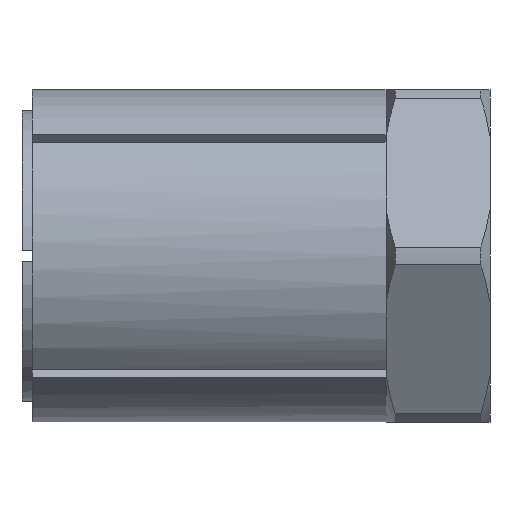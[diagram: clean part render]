
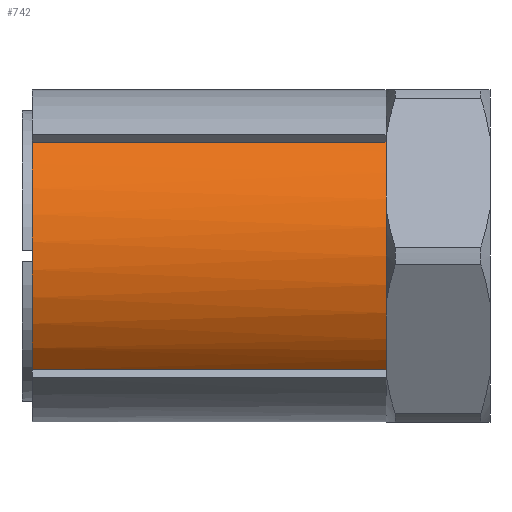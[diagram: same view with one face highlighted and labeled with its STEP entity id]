
A CAD part, front view. The second image highlights one B-rep face of the part: STEP entity #742.
In plain terms, the highlighted cylindrical face has radius 8 mm (diameter 16 mm), a partial arc.
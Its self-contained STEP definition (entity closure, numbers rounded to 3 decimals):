
#86 = EDGE_CURVE ( 'NONE', #2505, #2506, #2181, .T. ) ;
#87 = EDGE_CURVE ( 'NONE', #2511, #2501, #2188, .T. ) ;
#88 = EDGE_CURVE ( 'NONE', #2501, #2519, #2182, .T. ) ;
#89 = EDGE_CURVE ( 'NONE', #2502, #2511, #2191, .T. ) ;
#90 = EDGE_CURVE ( 'NONE', #2506, #2502, #2193, .T. ) ;
#98 = EDGE_CURVE ( 'NONE', #2505, #2519, #2555, .T. ) ;
#130 = AXIS2_PLACEMENT_3D ( 'NONE', #891, #893, #894 ) ;
#137 = AXIS2_PLACEMENT_3D ( 'NONE', #892, #900, #901 ) ;
#139 = AXIS2_PLACEMENT_3D ( 'NONE', #888, #898, #899 ) ;
#142 = AXIS2_PLACEMENT_3D ( 'NONE', #919, #920, #921 ) ;
#169 = AXIS2_PLACEMENT_3D ( 'NONE', #1177, #1176, #1172 ) ;
#540 = ORIENTED_EDGE ( 'NONE', *, *, #87, .T. ) ;
#541 = ORIENTED_EDGE ( 'NONE', *, *, #88, .T. ) ;
#542 = ORIENTED_EDGE ( 'NONE', *, *, #98, .F. ) ;
#543 = ORIENTED_EDGE ( 'NONE', *, *, #86, .T. ) ;
#544 = ORIENTED_EDGE ( 'NONE', *, *, #90, .T. ) ;
#545 = ORIENTED_EDGE ( 'NONE', *, *, #89, .T. ) ;
#742 = ADVANCED_FACE ( 'NONE', ( #2686 ), #2693, .T. ) ;
#888 = CARTESIAN_POINT ( 'NONE',  ( 17., 0., 0. ) ) ;
#889 = CARTESIAN_POINT ( 'NONE',  ( 0., -5.831, -5.477 ) ) ;
#890 = DIRECTION ( 'NONE',  ( 1., 0., 0. ) ) ;
#891 = CARTESIAN_POINT ( 'NONE',  ( 17., 0., 0. ) ) ;
#892 = CARTESIAN_POINT ( 'NONE',  ( 17., 0., 0. ) ) ;
#893 = DIRECTION ( 'NONE',  ( -1., 0., 0. ) ) ;
#894 = DIRECTION ( 'NONE',  ( 0., 0., 1. ) ) ;
#895 = CARTESIAN_POINT ( 'NONE',  ( 0., -5.831, 5.477 ) ) ;
#896 = DIRECTION ( 'NONE',  ( -1., 0., 0. ) ) ;
#898 = DIRECTION ( 'NONE',  ( -1., 0., 0. ) ) ;
#899 = DIRECTION ( 'NONE',  ( 0., 0., 1. ) ) ;
#900 = DIRECTION ( 'NONE',  ( -1., 0., 0. ) ) ;
#901 = DIRECTION ( 'NONE',  ( 0., 0., 1. ) ) ;
#919 = CARTESIAN_POINT ( 'NONE',  ( 0., 0., 0. ) ) ;
#920 = DIRECTION ( 'NONE',  ( -1., 0., 0. ) ) ;
#921 = DIRECTION ( 'NONE',  ( 0., 0., 1. ) ) ;
#1172 = DIRECTION ( 'NONE',  ( 0., 0., 1. ) ) ;
#1176 = DIRECTION ( 'NONE',  ( -1., 0., 0. ) ) ;
#1177 = CARTESIAN_POINT ( 'NONE',  ( 0., 0., 0. ) ) ;
#1704 = CARTESIAN_POINT ( 'NONE',  ( 17., -5.831, 5.477 ) ) ;
#1705 = CARTESIAN_POINT ( 'NONE',  ( 17., -6.928, -4. ) ) ;
#1708 = CARTESIAN_POINT ( 'NONE',  ( 0., -5.831, -5.477 ) ) ;
#1709 = CARTESIAN_POINT ( 'NONE',  ( 17., -5.831, -5.477 ) ) ;
#1714 = CARTESIAN_POINT ( 'NONE',  ( 17., -6.928, 4. ) ) ;
#1722 = CARTESIAN_POINT ( 'NONE',  ( 0., -5.831, 5.477 ) ) ;
#2059 = EDGE_LOOP ( 'NONE', ( #540, #541, #542, #543, #544, #545 ) ) ;
#2179 = VECTOR ( 'NONE', #896, 1000. ) ;
#2181 = LINE ( 'NONE', #889, #2184 ) ;
#2182 = LINE ( 'NONE', #895, #2179 ) ;
#2184 = VECTOR ( 'NONE', #890, 1000. ) ;
#2188 = CIRCLE ( 'NONE', #130, 8. ) ;
#2191 = CIRCLE ( 'NONE', #139, 8. ) ;
#2193 = CIRCLE ( 'NONE', #137, 8. ) ;
#2501 = VERTEX_POINT ( 'NONE', #1704 ) ;
#2502 = VERTEX_POINT ( 'NONE', #1705 ) ;
#2505 = VERTEX_POINT ( 'NONE', #1708 ) ;
#2506 = VERTEX_POINT ( 'NONE', #1709 ) ;
#2511 = VERTEX_POINT ( 'NONE', #1714 ) ;
#2519 = VERTEX_POINT ( 'NONE', #1722 ) ;
#2555 = CIRCLE ( 'NONE', #142, 8. ) ;
#2686 = FACE_OUTER_BOUND ( 'NONE', #2059, .T. ) ;
#2693 = CYLINDRICAL_SURFACE ( 'NONE', #169, 8. ) ;
